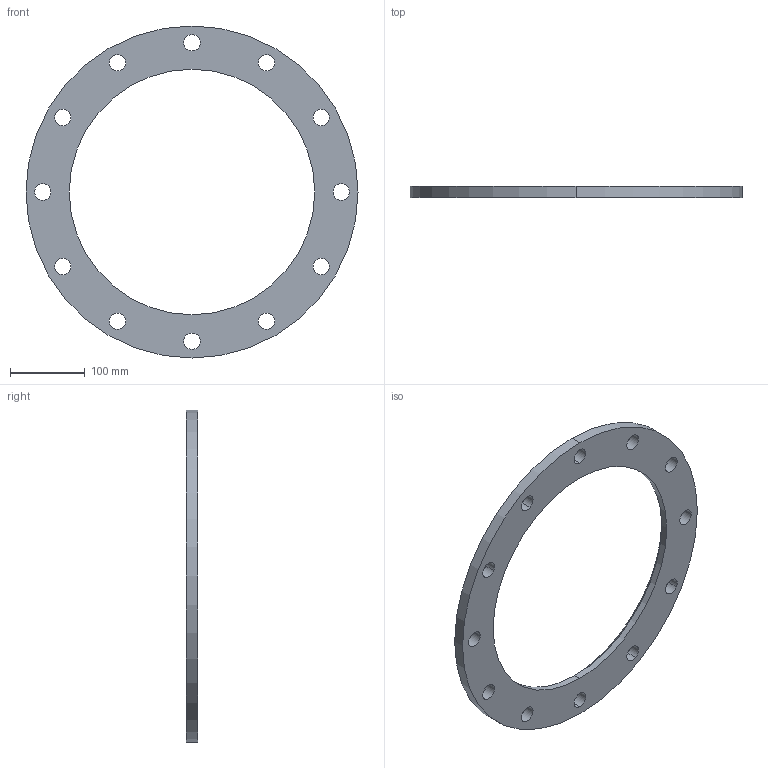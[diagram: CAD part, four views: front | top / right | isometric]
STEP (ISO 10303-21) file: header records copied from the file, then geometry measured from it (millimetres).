
FILE_DESCRIPTION (( 'STEP AP203' ), '1' );
FILE_NAME ('3D_R185_PN10_DN323.9_176641230_176642230.STEP', '2024-07-10T07:22:12', ( '' ), ( '' ), 'SwSTEP 2.0', 'SolidWorks 2024', '' );
FILE_SCHEMA (( 'CONFIG_CONTROL_DESIGN' ));
Length unit declared in the file: millimetre
Products named in the file (1): 3D_R185_PN10_DN323.9_176641230_176642230
Bounding box: 445 x 15 x 445 mm (x, y, z)
Volume: 973511.8 mm3; surface area: 177533.1 mm2
Topology: 1 solids, 1 shells, 32 faces, 88 edges, 58 vertices
Faces by surface type: cylinder 28, cone 2, plane 2
Entity records: 1183 total; most frequent: DIRECTION 212, CARTESIAN_POINT 179, ORIENTED_EDGE 176, AXIS2_PLACEMENT_3D 91, EDGE_CURVE 88, EDGE_LOOP 58, CIRCLE 58, VERTEX_POINT 58
